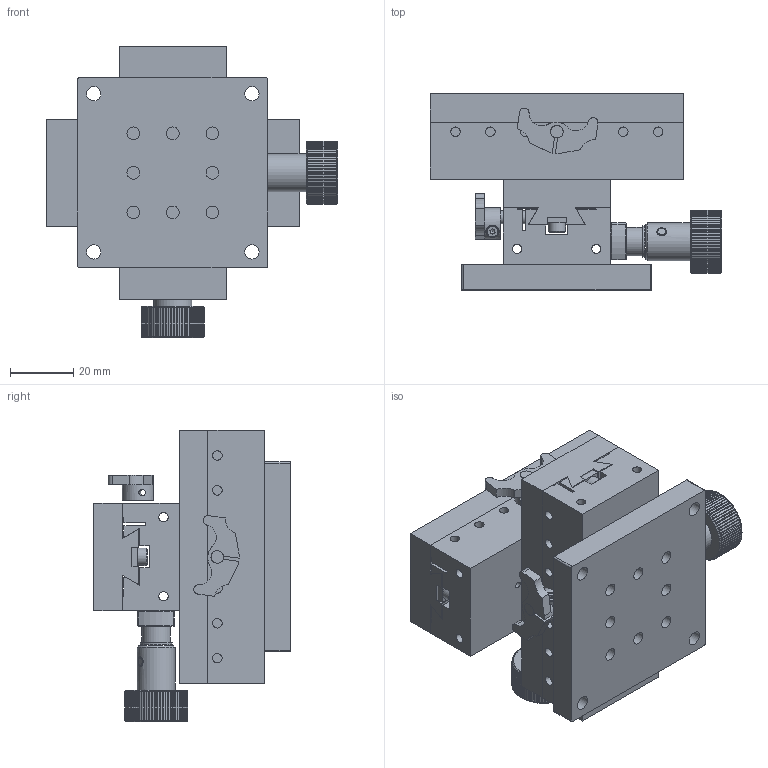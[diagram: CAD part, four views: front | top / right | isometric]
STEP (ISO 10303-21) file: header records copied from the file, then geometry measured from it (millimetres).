
FILE_DESCRIPTION (( 'STEP AP203' ), '1' );
FILE_NAME ('TGV34XY-24.step', '2017-01-10T09:18:55', ( '¦K¬P' ), ( '' ), 'SwSTEP 2.0', 'SolidWorks 2012', '' );
FILE_SCHEMA (( 'CONFIG_CONTROL_DESIGN' ));
Length unit declared in the file: millimetre
Products named in the file (1): TGV34XY-24
Bounding box: 92.11 x 62 x 92.11 mm (x, y, z)
Surface area: 62307 mm2 (no closed solid volume)
Topology: 0 solids, 32 shells, 768 faces, 2342 edges, 1583 vertices
Faces by surface type: plane 463, cylinder 272, cone 33
Full cylindrical faces by diameter (mm): 2 x27, 2.9 x8, 3 x17, 3.8 x1, 4 x23, 4.2 x1, 4.5 x4, 5.5 x4, 6 x11, 8 x4, 9 x2, 10 x2, 12 x2
Entity records: 27066 total; most frequent: CARTESIAN_POINT 6949, ORIENTED_EDGE 4055, DIRECTION 3835, EDGE_CURVE 2206, VERTEX_POINT 1578, AXIS2_PLACEMENT_3D 1464, EDGE_LOOP 1109, VECTOR 907
